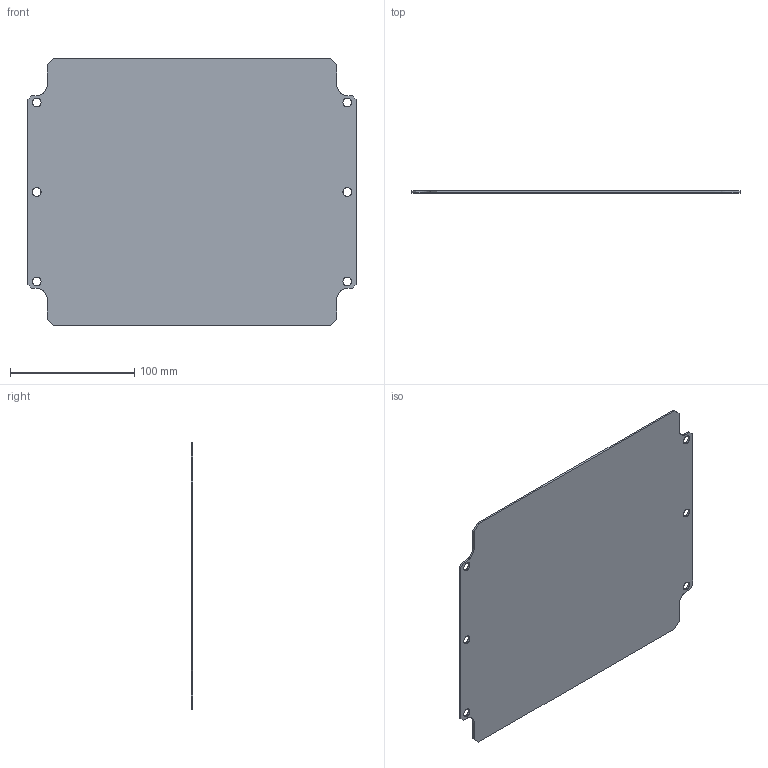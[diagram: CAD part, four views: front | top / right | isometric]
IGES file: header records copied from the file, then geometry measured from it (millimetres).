
Start section: SolidWorks IGES file using analytic representation for surfaces
Global section: file name: G:\3DRAW\EURONORD\3DCAM\Aluminum\Asennuslevyt\AM 2328.IGS; native system: SolidWorks 2009; preprocessor: SolidWorks 2009; author: KennethW; date: 100216.150042; units: millimetre
Bounding box: 264 x 1.5 x 215 mm (x, y, z)
Surface area: 110952.3 mm2 (no closed solid volume)
Topology: 0 solids, 0 shells, 150 faces, 1858 edges, 1858 vertices
Faces by surface type: bspline 78, revolution 72
